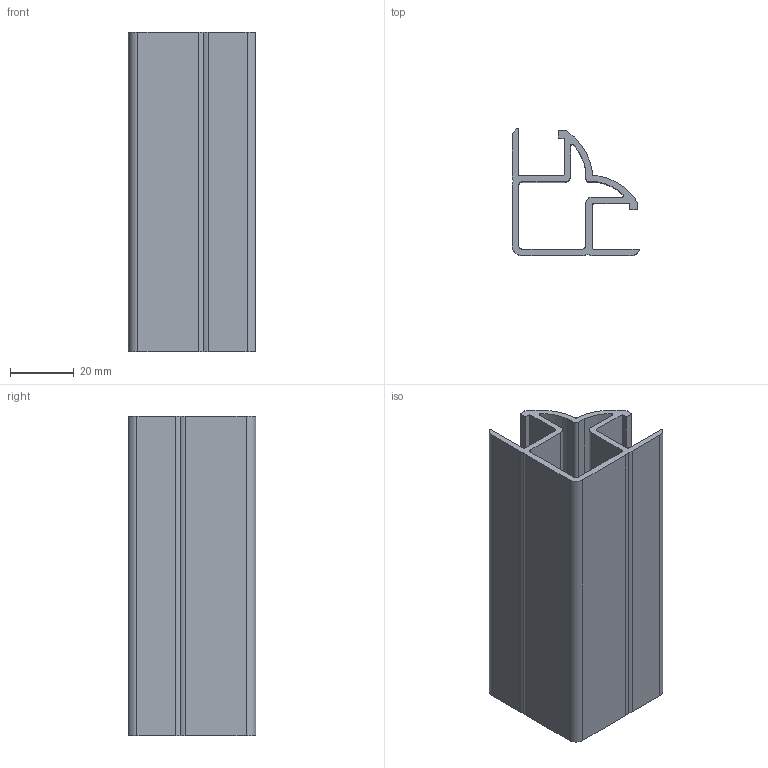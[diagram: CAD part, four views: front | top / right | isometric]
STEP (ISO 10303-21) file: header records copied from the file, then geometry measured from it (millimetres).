
FILE_DESCRIPTION (( 'STEP AP203' ), '1' );
FILE_NAME ('013.025.008.STEP', '2020-07-22T09:05:57', ( '' ), ( '' ), 'SwSTEP 2.0', 'SolidWorks 2018', '' );
FILE_SCHEMA (( 'CONFIG_CONTROL_DESIGN' ));
Length unit declared in the file: millimetre
Products named in the file (1): 013.025.008
Bounding box: 39.9 x 39.9 x 100 mm (x, y, z)
Volume: 33215.7 mm3; surface area: 33677.8 mm2
Topology: 1 solids, 1 shells, 62 faces, 180 edges, 120 vertices
Faces by surface type: cylinder 32, plane 28, bspline 2
Entity records: 2161 total; most frequent: CARTESIAN_POINT 389, DIRECTION 362, ORIENTED_EDGE 360, EDGE_CURVE 180, AXIS2_PLACEMENT_3D 125, VERTEX_POINT 120, LINE 112, VECTOR 112
